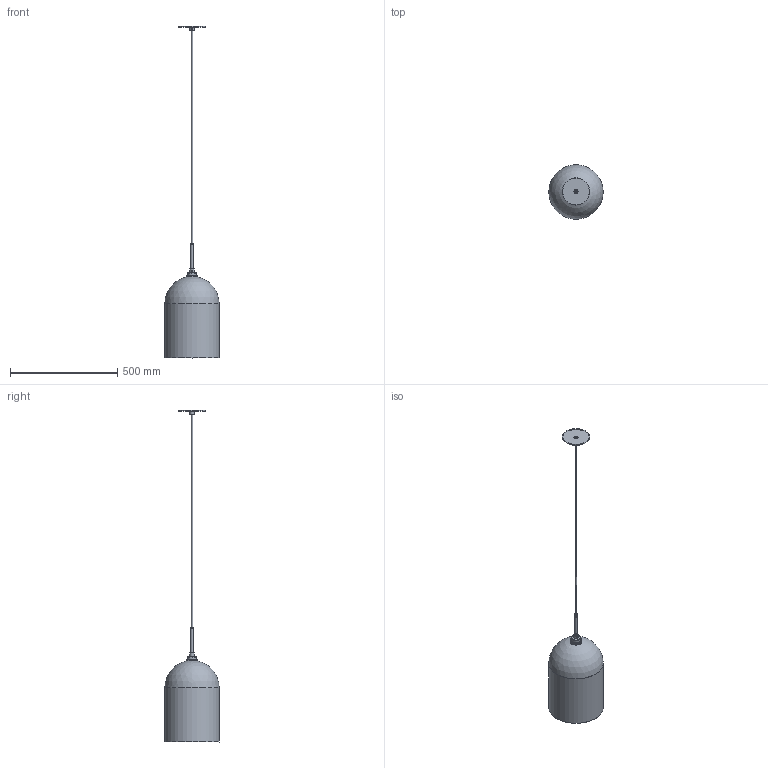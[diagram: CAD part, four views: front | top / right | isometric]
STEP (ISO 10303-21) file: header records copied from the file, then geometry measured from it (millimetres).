
FILE_DESCRIPTION(/* description */ (''),/* implementation_level */ '2;1');
FILE_NAME(/* name */ 'C:/Users/zach/Niche/Product Development - Documents/CAD Models/Pendants/Cloche Series/CAD Drawings/Cloche Grand/Glass - Luxe Hardware/Niche - Cloche Grand Pendant.step',/* time_stamp */ '2022-06-22T11:01:18-04:00',/* author */ (''),/* organization */ (''),/* preprocessor_version */ 'ST-DEVELOPER v19',/* originating_system */ 'Autodesk Translation Framework v11.7.0.108',/* authorisation */ '');
FILE_SCHEMA (('AUTOMOTIVE_DESIGN { 1 0 10303 214 3 1 1 }'));
Length unit declared in the file: inch
Products named in the file (1): Cloche Grand
Bounding box: 254 x 254 x 1550.48 mm (x, y, z)
Volume: 1198068 mm3; surface area: 720799.6 mm2
Topology: 12 solids, 12 shells, 232 faces, 602 edges, 400 vertices
Faces by surface type: cylinder 156, plane 59, bspline 11, sphere 3, cone 3
Full cylindrical faces by diameter (mm): 4.355 x4, 4.529 x1, 4.927 x9, 5.08 x1, 6.096 x1, 6.35 x1, 6.5 x1, 7.62 x1, 7.744 x7, 8.036 x15, 8.852 x1, 8.884 x8, 9.035 x1, 9.146 x11, 10.16 x1, 12.7 x2, 19.05 x1, 19.2 x1, 25.4 x1, 26.022 x1, 34.97 x1, 35.052 x9, 37.85 x8, 39 x1, 39.35 x1, 41.035 x1, 41.2 x1, 41.884 x1, 44 x1, 44.958 x1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
Entity records: 17219 total; most frequent: CARTESIAN_POINT 11947, ORIENTED_EDGE 1202, DIRECTION 860, EDGE_CURVE 601, VERTEX_POINT 400, AXIS2_PLACEMENT_3D 321, B_SPLINE_CURVE_WITH_KNOTS 284, EDGE_LOOP 263
